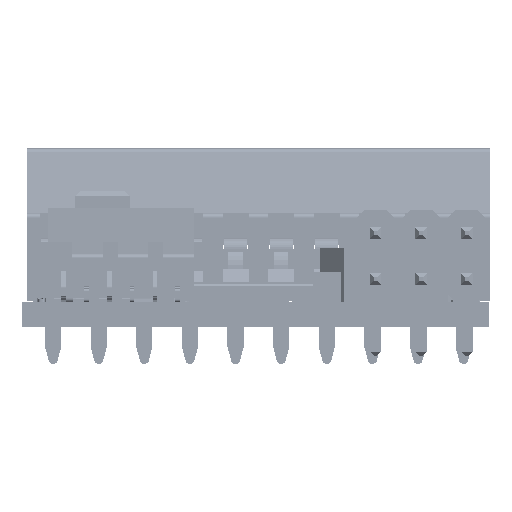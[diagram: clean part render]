
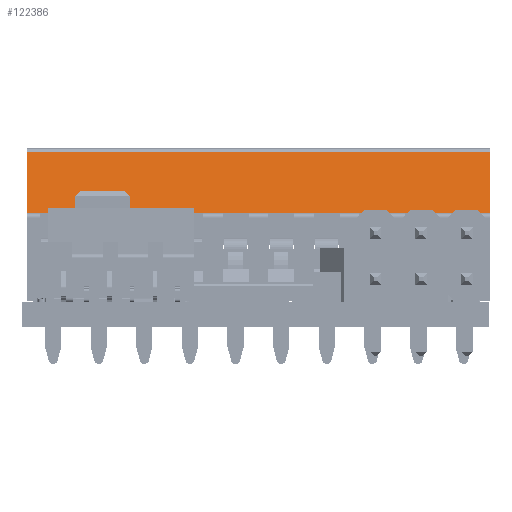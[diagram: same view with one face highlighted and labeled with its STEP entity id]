
A CAD part, left-side view. The second image highlights one B-rep face of the part: STEP entity #122386.
In plain terms, the highlighted planar face has unit normal (-0.97, 0, 0.242) as drawn and (0, -0.97, 0.242) by its records, which use the part's own axes.
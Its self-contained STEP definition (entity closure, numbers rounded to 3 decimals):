
#4952=PLANE('',#131467);
#11207=FACE_OUTER_BOUND('',#18811,.T.);
#18811=EDGE_LOOP('',(#98812,#98813,#98814,#98815,#98816,#98817,#98818,#98819,
#98820,#98821,#98822,#98823,#98824,#98825,#98826,#98827,#98828,#98829,#98830,
#98831,#98832,#98833,#98834,#98835));
#26333=LINE('',#183961,#40454);
#26339=LINE('',#183978,#40460);
#26340=LINE('',#183981,#40461);
#26346=LINE('',#183993,#40467);
#26348=LINE('',#183996,#40469);
#27037=LINE('',#185752,#41158);
#27038=LINE('',#185755,#41159);
#27044=LINE('',#185767,#41165);
#27046=LINE('',#185770,#41167);
#27726=LINE('',#187505,#41847);
#27736=LINE('',#187528,#41857);
#28075=LINE('',#188392,#42196);
#28085=LINE('',#188415,#42206);
#28424=LINE('',#189279,#42545);
#28434=LINE('',#189302,#42555);
#28773=LINE('',#190166,#42894);
#28783=LINE('',#190189,#42904);
#29122=LINE('',#191053,#43243);
#29132=LINE('',#191076,#43253);
#29469=LINE('',#191937,#43590);
#29470=LINE('',#191939,#43591);
#29471=LINE('',#191941,#43592);
#29472=LINE('',#191943,#43593);
#29473=LINE('',#191944,#43594);
#40454=VECTOR('',#146305,3.476);
#40460=VECTOR('',#146319,10.);
#40461=VECTOR('',#146322,1.45);
#40467=VECTOR('',#146330,10.);
#40469=VECTOR('',#146334,1.45);
#41158=VECTOR('',#147917,10.);
#41159=VECTOR('',#147920,1.45);
#41165=VECTOR('',#147928,10.);
#41167=VECTOR('',#147932,1.45);
#41847=VECTOR('',#149502,10.);
#41857=VECTOR('',#149520,1.45);
#42196=VECTOR('',#150301,10.);
#42206=VECTOR('',#150319,1.45);
#42545=VECTOR('',#151100,10.);
#42555=VECTOR('',#151118,1.45);
#42894=VECTOR('',#151899,10.);
#42904=VECTOR('',#151917,1.45);
#43243=VECTOR('',#152698,10.);
#43253=VECTOR('',#152716,1.45);
#43590=VECTOR('',#153495,10.);
#43591=VECTOR('',#153496,1.45);
#43592=VECTOR('',#153497,10.);
#43593=VECTOR('',#153498,3.476);
#43594=VECTOR('',#153499,25.8);
#56253=VERTEX_POINT('',#183931);
#56266=VERTEX_POINT('',#183958);
#56267=VERTEX_POINT('',#183960);
#56274=VERTEX_POINT('',#183976);
#56275=VERTEX_POINT('',#183980);
#56280=VERTEX_POINT('',#183991);
#56811=VERTEX_POINT('',#185730);
#56820=VERTEX_POINT('',#185750);
#56821=VERTEX_POINT('',#185754);
#56826=VERTEX_POINT('',#185765);
#57356=VERTEX_POINT('',#187503);
#57365=VERTEX_POINT('',#187527);
#57629=VERTEX_POINT('',#188390);
#57638=VERTEX_POINT('',#188414);
#57902=VERTEX_POINT('',#189277);
#57911=VERTEX_POINT('',#189301);
#58175=VERTEX_POINT('',#190164);
#58184=VERTEX_POINT('',#190188);
#58448=VERTEX_POINT('',#191051);
#58457=VERTEX_POINT('',#191075);
#58720=VERTEX_POINT('',#191936);
#58721=VERTEX_POINT('',#191938);
#58722=VERTEX_POINT('',#191940);
#58723=VERTEX_POINT('',#191942);
#68971=EDGE_CURVE('',#56266,#56267,#26333,.T.);
#68980=EDGE_CURVE('',#56274,#56266,#26339,.T.);
#68981=EDGE_CURVE('',#56275,#56274,#26340,.T.);
#68987=EDGE_CURVE('',#56280,#56275,#26346,.T.);
#68989=EDGE_CURVE('',#56253,#56280,#26348,.T.);
#69832=EDGE_CURVE('',#56820,#56253,#27037,.T.);
#69833=EDGE_CURVE('',#56821,#56820,#27038,.T.);
#69839=EDGE_CURVE('',#56826,#56821,#27044,.T.);
#69841=EDGE_CURVE('',#56811,#56826,#27046,.T.);
#70674=EDGE_CURVE('',#57356,#56811,#27726,.T.);
#70685=EDGE_CURVE('',#57365,#57356,#27736,.T.);
#71100=EDGE_CURVE('',#57629,#57365,#28075,.T.);
#71111=EDGE_CURVE('',#57638,#57629,#28085,.T.);
#71526=EDGE_CURVE('',#57902,#57638,#28424,.T.);
#71537=EDGE_CURVE('',#57911,#57902,#28434,.T.);
#71952=EDGE_CURVE('',#58175,#57911,#28773,.T.);
#71963=EDGE_CURVE('',#58184,#58175,#28783,.T.);
#72378=EDGE_CURVE('',#58448,#58184,#29122,.T.);
#72389=EDGE_CURVE('',#58457,#58448,#29132,.T.);
#72802=EDGE_CURVE('',#58720,#58457,#29469,.T.);
#72803=EDGE_CURVE('',#58721,#58720,#29470,.T.);
#72804=EDGE_CURVE('',#58722,#58721,#29471,.T.);
#72805=EDGE_CURVE('',#58722,#58723,#29472,.T.);
#72806=EDGE_CURVE('',#56267,#58723,#29473,.T.);
#98812=ORIENTED_EDGE('',*,*,#72802,.F.);
#98813=ORIENTED_EDGE('',*,*,#72803,.F.);
#98814=ORIENTED_EDGE('',*,*,#72804,.F.);
#98815=ORIENTED_EDGE('',*,*,#72805,.T.);
#98816=ORIENTED_EDGE('',*,*,#72806,.F.);
#98817=ORIENTED_EDGE('',*,*,#68971,.F.);
#98818=ORIENTED_EDGE('',*,*,#68980,.F.);
#98819=ORIENTED_EDGE('',*,*,#68981,.F.);
#98820=ORIENTED_EDGE('',*,*,#68987,.F.);
#98821=ORIENTED_EDGE('',*,*,#68989,.F.);
#98822=ORIENTED_EDGE('',*,*,#69832,.F.);
#98823=ORIENTED_EDGE('',*,*,#69833,.F.);
#98824=ORIENTED_EDGE('',*,*,#69839,.F.);
#98825=ORIENTED_EDGE('',*,*,#69841,.F.);
#98826=ORIENTED_EDGE('',*,*,#70674,.F.);
#98827=ORIENTED_EDGE('',*,*,#70685,.F.);
#98828=ORIENTED_EDGE('',*,*,#71100,.F.);
#98829=ORIENTED_EDGE('',*,*,#71111,.F.);
#98830=ORIENTED_EDGE('',*,*,#71526,.F.);
#98831=ORIENTED_EDGE('',*,*,#71537,.F.);
#98832=ORIENTED_EDGE('',*,*,#71952,.F.);
#98833=ORIENTED_EDGE('',*,*,#71963,.F.);
#98834=ORIENTED_EDGE('',*,*,#72378,.F.);
#98835=ORIENTED_EDGE('',*,*,#72389,.F.);
#122386=ADVANCED_FACE('',(#11207),#4952,.T.);
#131467=AXIS2_PLACEMENT_3D('',#191935,#153493,#153494);
#146305=DIRECTION('',(0.,0.242,0.97));
#146319=DIRECTION('',(-1.,0.,0.));
#146322=DIRECTION('',(-1.,0.,0.));
#146330=DIRECTION('',(-1.,0.,0.));
#146334=DIRECTION('',(-1.,0.,0.));
#147917=DIRECTION('',(-1.,0.,0.));
#147920=DIRECTION('',(-1.,0.,0.));
#147928=DIRECTION('',(-1.,0.,0.));
#147932=DIRECTION('',(-1.,0.,0.));
#149502=DIRECTION('',(-1.,0.,0.));
#149520=DIRECTION('',(-1.,0.,0.));
#150301=DIRECTION('',(-1.,0.,0.));
#150319=DIRECTION('',(-1.,0.,0.));
#151100=DIRECTION('',(-1.,0.,0.));
#151118=DIRECTION('',(-1.,0.,0.));
#151899=DIRECTION('',(-1.,0.,0.));
#151917=DIRECTION('',(-1.,0.,0.));
#152698=DIRECTION('',(-1.,0.,0.));
#152716=DIRECTION('',(-1.,0.,0.));
#153493=DIRECTION('center_axis',(0.,-0.97,
0.242));
#153494=DIRECTION('ref_axis',(1.,0.,0.));
#153495=DIRECTION('',(-1.,0.,0.));
#153496=DIRECTION('',(-1.,0.,0.));
#153497=DIRECTION('',(-1.,0.,0.));
#153498=DIRECTION('',(0.,0.242,0.97));
#153499=DIRECTION('',(1.,0.,0.));
#183931=CARTESIAN_POINT('',(-8.001,-8.484,4.972));
#183958=CARTESIAN_POINT('',(-12.736,-8.483,4.972));
#183960=CARTESIAN_POINT('',(-12.736,-7.642,8.345));
#183961=CARTESIAN_POINT('',(-12.736,-8.483,4.972));
#183976=CARTESIAN_POINT('',(-11.991,-8.484,4.972));
#183978=CARTESIAN_POINT('',(7.984,-8.483,4.972));
#183980=CARTESIAN_POINT('',(-10.541,-8.484,4.972));
#183981=CARTESIAN_POINT('',(-10.541,-8.484,4.972));
#183991=CARTESIAN_POINT('',(-9.451,-8.484,4.972));
#183993=CARTESIAN_POINT('',(7.984,-8.483,4.972));
#183996=CARTESIAN_POINT('',(-8.001,-8.484,4.972));
#185730=CARTESIAN_POINT('',(-2.921,-8.484,4.972));
#185750=CARTESIAN_POINT('',(-6.911,-8.484,4.972));
#185752=CARTESIAN_POINT('',(7.984,-8.483,4.972));
#185754=CARTESIAN_POINT('',(-5.461,-8.484,4.972));
#185755=CARTESIAN_POINT('',(-5.461,-8.484,4.972));
#185765=CARTESIAN_POINT('',(-4.371,-8.484,4.972));
#185767=CARTESIAN_POINT('',(7.984,-8.483,4.972));
#185770=CARTESIAN_POINT('',(-2.921,-8.484,4.972));
#187503=CARTESIAN_POINT('',(-1.831,-8.484,4.972));
#187505=CARTESIAN_POINT('',(7.984,-8.483,4.972));
#187527=CARTESIAN_POINT('',(-0.381,-8.484,4.972));
#187528=CARTESIAN_POINT('',(-0.381,-8.484,4.972));
#188390=CARTESIAN_POINT('',(0.709,-8.484,4.972));
#188392=CARTESIAN_POINT('',(9.254,-8.483,4.972));
#188414=CARTESIAN_POINT('',(2.159,-8.484,4.972));
#188415=CARTESIAN_POINT('',(2.159,-8.484,4.972));
#189277=CARTESIAN_POINT('',(3.249,-8.484,4.972));
#189279=CARTESIAN_POINT('',(10.524,-8.483,4.972));
#189301=CARTESIAN_POINT('',(4.699,-8.484,4.972));
#189302=CARTESIAN_POINT('',(4.699,-8.484,4.972));
#190164=CARTESIAN_POINT('',(5.789,-8.484,4.972));
#190166=CARTESIAN_POINT('',(11.794,-8.483,4.972));
#190188=CARTESIAN_POINT('',(7.239,-8.484,4.972));
#190189=CARTESIAN_POINT('',(7.239,-8.484,4.972));
#191051=CARTESIAN_POINT('',(8.329,-8.484,4.972));
#191053=CARTESIAN_POINT('',(13.064,-8.483,4.972));
#191075=CARTESIAN_POINT('',(9.779,-8.484,4.972));
#191076=CARTESIAN_POINT('',(9.779,-8.484,4.972));
#191935=CARTESIAN_POINT('Origin',(13.064,-8.483,4.972));
#191936=CARTESIAN_POINT('',(10.869,-8.484,4.972));
#191937=CARTESIAN_POINT('',(13.064,-8.483,4.972));
#191938=CARTESIAN_POINT('',(12.319,-8.484,4.972));
#191939=CARTESIAN_POINT('',(12.319,-8.484,4.972));
#191940=CARTESIAN_POINT('',(13.064,-8.483,4.972));
#191941=CARTESIAN_POINT('',(13.064,-8.483,4.972));
#191942=CARTESIAN_POINT('',(13.064,-7.642,8.345));
#191943=CARTESIAN_POINT('',(13.064,-8.483,4.972));
#191944=CARTESIAN_POINT('',(-12.736,-7.642,8.345));
